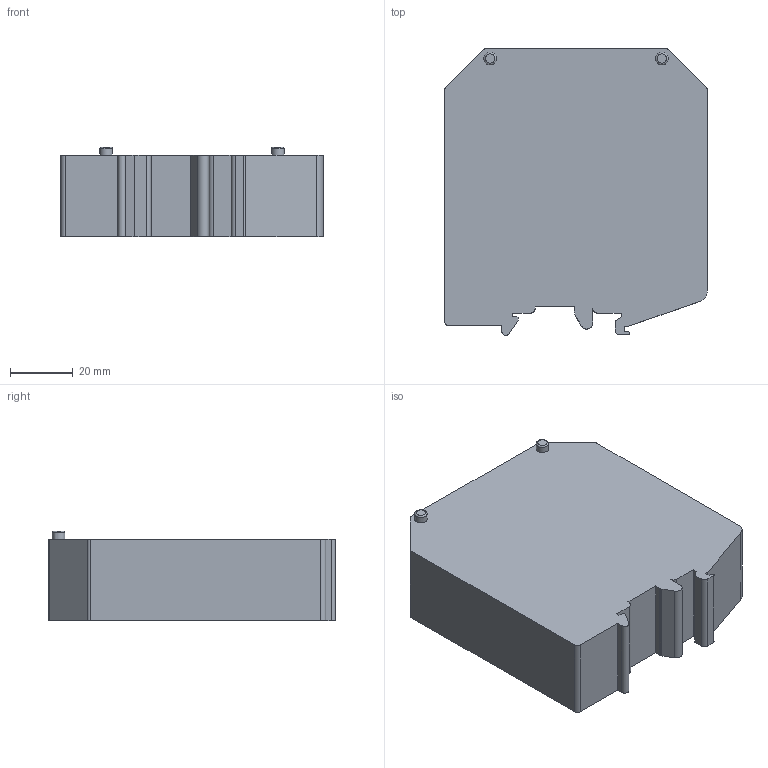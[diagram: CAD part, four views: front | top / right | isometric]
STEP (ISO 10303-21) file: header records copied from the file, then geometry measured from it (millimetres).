
FILE_DESCRIPTION(/* description */ (''),/* implementation_level */ '2;1');
FILE_NAME(/* name */ 'JUT1-95.stp',/* time_stamp */ '2022-08-09T17:55:45+08:00',/* author */ (''),/* organization */ (''),/* preprocessor_version */ 'ST-DEVELOPER v16.7',/* originating_system */ 'SIEMENS PLM Software NX 12.0',/* authorisation */ '');
FILE_SCHEMA (('AP203_CONFIGURATION_CONTROLLED_3D_DESIGN_OF_MECHANICAL_PARTS_AND_ASSEMBLIES_MIM_LF { 1 0 10303 403 2 1 2}'));
Length unit declared in the file: millimetre
Products named in the file (1): Admi6C8CCE3Fc8b3
Bounding box: 83.6 x 91.2 x 28.5 mm (x, y, z)
Volume: 181417.9 mm3; surface area: 23402.1 mm2
Topology: 1 solids, 1 shells, 52 faces, 137 edges, 91 vertices
Faces by surface type: plane 33, cylinder 17, torus 2
Full cylindrical faces by diameter (mm): 4 x2, 4.2 x2
Entity records: 1672 total; most frequent: CARTESIAN_POINT 273, DIRECTION 272, ORIENTED_EDGE 260, EDGE_CURVE 130, LINE 94, VECTOR 94, VERTEX_POINT 90, AXIS2_PLACEMENT_3D 89
